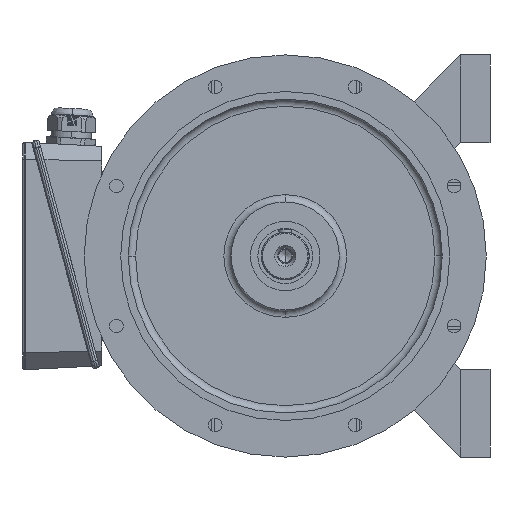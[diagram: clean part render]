
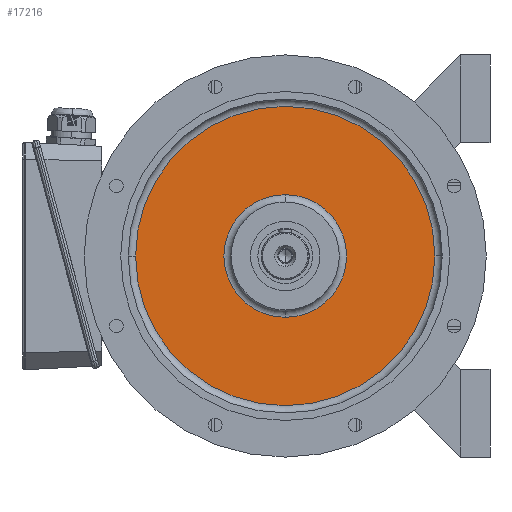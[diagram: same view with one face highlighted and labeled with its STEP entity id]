
A CAD part, left-side view. The second image highlights one B-rep face of the part: STEP entity #17216.
In plain terms, the highlighted planar face has unit normal (-1, 0, 0).
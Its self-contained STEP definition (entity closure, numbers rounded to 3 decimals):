
#79 = DIRECTION ( 'NONE',  ( -1., 0., 0. ) ) ;
#186 = CARTESIAN_POINT ( 'NONE',  ( -326.5, 0., 0. ) ) ;
#1134 = EDGE_LOOP ( 'NONE', ( #10092, #11793 ) ) ;
#1540 = DIRECTION ( 'NONE',  ( 1., 0., 0. ) ) ;
#2766 = FACE_OUTER_BOUND ( 'NONE', #1134, .T. ) ;
#2989 = AXIS2_PLACEMENT_3D ( 'NONE', #32282, #15649, #26936 ) ;
#3051 = CARTESIAN_POINT ( 'NONE',  ( -326.5, 0., -83.914 ) ) ;
#3418 = CIRCLE ( 'NONE', #2989, 204.66 ) ;
#3915 = EDGE_CURVE ( 'NONE', #33031, #24163, #6400, .T. ) ;
#4302 = VERTEX_POINT ( 'NONE', #13189 ) ;
#6384 = AXIS2_PLACEMENT_3D ( 'NONE', #14128, #15948, #15015 ) ;
#6400 = CIRCLE ( 'NONE', #6384, 204.66 ) ;
#6581 = AXIS2_PLACEMENT_3D ( 'NONE', #25183, #79, #11129 ) ;
#9575 = EDGE_LOOP ( 'NONE', ( #9601, #9787 ) ) ;
#9601 = ORIENTED_EDGE ( 'NONE', *, *, #29383, .T. ) ;
#9787 = ORIENTED_EDGE ( 'NONE', *, *, #31497, .T. ) ;
#10092 = ORIENTED_EDGE ( 'NONE', *, *, #3915, .F. ) ;
#11129 = DIRECTION ( 'NONE',  ( 0., 0., 1. ) ) ;
#11240 = DIRECTION ( 'NONE',  ( 1., 0., 0. ) ) ;
#11793 = ORIENTED_EDGE ( 'NONE', *, *, #14184, .F. ) ;
#11901 = CARTESIAN_POINT ( 'NONE',  ( -326.5, -204.66, 0. ) ) ;
#12613 = DIRECTION ( 'NONE',  ( 0., 0., -1. ) ) ;
#13189 = CARTESIAN_POINT ( 'NONE',  ( -326.5, 0., 83.914 ) ) ;
#13864 = PLANE ( 'NONE',  #6581 ) ;
#14128 = CARTESIAN_POINT ( 'NONE',  ( -326.5, 0., 0. ) ) ;
#14184 = EDGE_CURVE ( 'NONE', #24163, #33031, #3418, .T. ) ;
#15015 = DIRECTION ( 'NONE',  ( 0., 1., 0. ) ) ;
#15649 = DIRECTION ( 'NONE',  ( 1., 0., 0. ) ) ;
#15948 = DIRECTION ( 'NONE',  ( 1., 0., 0. ) ) ;
#17216 = ADVANCED_FACE ( 'NONE', ( #27915, #2766 ), #13864, .T. ) ;
#22530 = DIRECTION ( 'NONE',  ( 0., 0., -1. ) ) ;
#23632 = VERTEX_POINT ( 'NONE', #3051 ) ;
#24163 = VERTEX_POINT ( 'NONE', #11901 ) ;
#25183 = CARTESIAN_POINT ( 'NONE',  ( -326.5, 144.287, 0. ) ) ;
#25188 = AXIS2_PLACEMENT_3D ( 'NONE', #186, #11240, #22530 ) ;
#25189 = CIRCLE ( 'NONE', #25188, 83.914 ) ;
#26675 = CARTESIAN_POINT ( 'NONE',  ( -326.5, 0., 0. ) ) ;
#26817 = AXIS2_PLACEMENT_3D ( 'NONE', #26675, #1540, #12613 ) ;
#26853 = CIRCLE ( 'NONE', #26817, 83.914 ) ;
#26936 = DIRECTION ( 'NONE',  ( 0., 1., 0. ) ) ;
#27148 = CARTESIAN_POINT ( 'NONE',  ( -326.5, 204.66, 0. ) ) ;
#27915 = FACE_BOUND ( 'NONE', #9575, .T. ) ;
#29383 = EDGE_CURVE ( 'NONE', #23632, #4302, #26853, .T. ) ;
#31497 = EDGE_CURVE ( 'NONE', #4302, #23632, #25189, .T. ) ;
#32282 = CARTESIAN_POINT ( 'NONE',  ( -326.5, 0., 0. ) ) ;
#33031 = VERTEX_POINT ( 'NONE', #27148 ) ;
